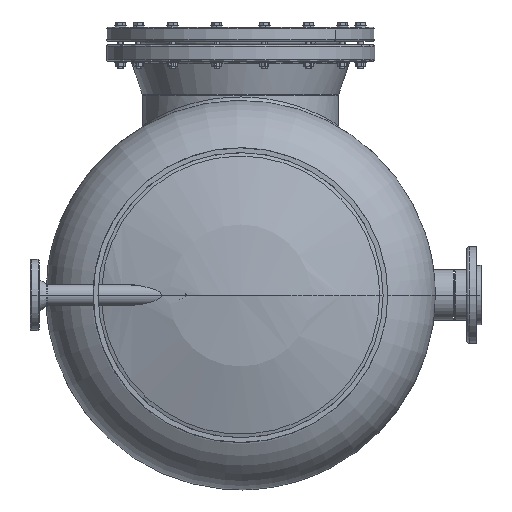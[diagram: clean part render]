
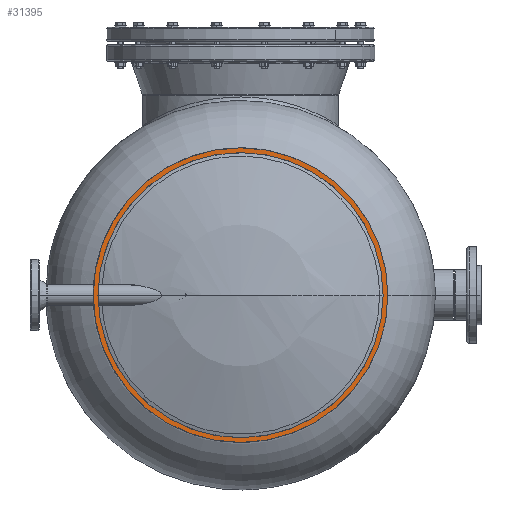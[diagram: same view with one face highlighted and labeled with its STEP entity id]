
A CAD part, front view. The second image highlights one B-rep face of the part: STEP entity #31395.
In plain terms, the highlighted planar face has unit normal (0, -1, 0).
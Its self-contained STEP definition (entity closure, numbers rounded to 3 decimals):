
#698 = VERTEX_POINT ( 'NONE', #53077 ) ;
#1270 = VERTEX_POINT ( 'NONE', #16438 ) ;
#9919 = DIRECTION ( 'NONE',  ( 0., 1., 0. ) ) ;
#11534 = EDGE_LOOP ( 'NONE', ( #17771, #36262 ) ) ;
#11903 = CIRCLE ( 'NONE', #50437, 300. ) ;
#14351 = EDGE_LOOP ( 'NONE', ( #84420, #76701 ) ) ;
#15862 = AXIS2_PLACEMENT_3D ( 'NONE', #16201, #53780, #45575 ) ;
#16062 = EDGE_CURVE ( 'NONE', #50148, #92856, #23283, .T. ) ;
#16201 = CARTESIAN_POINT ( 'NONE',  ( 310., 0., -310.038 ) ) ;
#16438 = CARTESIAN_POINT ( 'NONE',  ( 10., 0., -310.038 ) ) ;
#17771 = ORIENTED_EDGE ( 'NONE', *, *, #49826, .F. ) ;
#23283 = CIRCLE ( 'NONE', #74046, 310. ) ;
#30708 = CIRCLE ( 'NONE', #32232, 310. ) ;
#31129 = CARTESIAN_POINT ( 'NONE',  ( 310., 0., -310.038 ) ) ;
#31395 = ADVANCED_FACE ( 'NONE', ( #60103, #52856 ), #45102, .F. ) ;
#32232 = AXIS2_PLACEMENT_3D ( 'NONE', #39970, #40925, #92987 ) ;
#36262 = ORIENTED_EDGE ( 'NONE', *, *, #42942, .T. ) ;
#39970 = CARTESIAN_POINT ( 'NONE',  ( 310., 0., -310.038 ) ) ;
#40052 = AXIS2_PLACEMENT_3D ( 'NONE', #31129, #9919, #89442 ) ;
#40925 = DIRECTION ( 'NONE',  ( 0., -1., 0. ) ) ;
#40977 = CARTESIAN_POINT ( 'NONE',  ( 620., 0., -310.038 ) ) ;
#42942 = EDGE_CURVE ( 'NONE', #698, #1270, #63658, .T. ) ;
#45102 = PLANE ( 'NONE',  #40052 ) ;
#45575 = DIRECTION ( 'NONE',  ( 1., 0., 0. ) ) ;
#47466 = EDGE_CURVE ( 'NONE', #50148, #92856, #30708, .T. ) ;
#49826 = EDGE_CURVE ( 'NONE', #698, #1270, #11903, .T. ) ;
#50148 = VERTEX_POINT ( 'NONE', #40977 ) ;
#50437 = AXIS2_PLACEMENT_3D ( 'NONE', #75936, #91828, #62954 ) ;
#52856 = FACE_BOUND ( 'NONE', #11534, .T. ) ;
#53077 = CARTESIAN_POINT ( 'NONE',  ( 610., 0., -310.038 ) ) ;
#53780 = DIRECTION ( 'NONE',  ( 0., 1., 0. ) ) ;
#60103 = FACE_OUTER_BOUND ( 'NONE', #14351, .T. ) ;
#61950 = CARTESIAN_POINT ( 'NONE',  ( 310., 0., -310.038 ) ) ;
#62954 = DIRECTION ( 'NONE',  ( 1., 0., 0. ) ) ;
#63658 = CIRCLE ( 'NONE', #15862, 300. ) ;
#68725 = DIRECTION ( 'NONE',  ( 1., 0., 0. ) ) ;
#74046 = AXIS2_PLACEMENT_3D ( 'NONE', #61950, #91318, #68725 ) ;
#75936 = CARTESIAN_POINT ( 'NONE',  ( 310., 0., -310.038 ) ) ;
#76701 = ORIENTED_EDGE ( 'NONE', *, *, #47466, .T. ) ;
#84420 = ORIENTED_EDGE ( 'NONE', *, *, #16062, .F. ) ;
#87860 = CARTESIAN_POINT ( 'NONE',  ( 0., 0., -310.038 ) ) ;
#89442 = DIRECTION ( 'NONE',  ( 1., 0., 0. ) ) ;
#91318 = DIRECTION ( 'NONE',  ( 0., 1., 0. ) ) ;
#91828 = DIRECTION ( 'NONE',  ( 0., -1., 0. ) ) ;
#92856 = VERTEX_POINT ( 'NONE', #87860 ) ;
#92987 = DIRECTION ( 'NONE',  ( 1., 0., 0. ) ) ;
